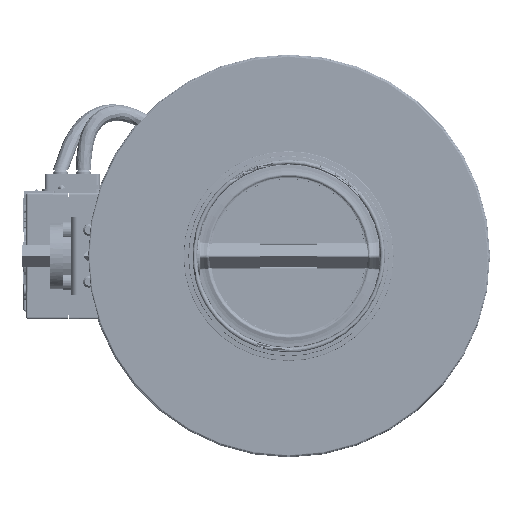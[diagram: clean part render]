
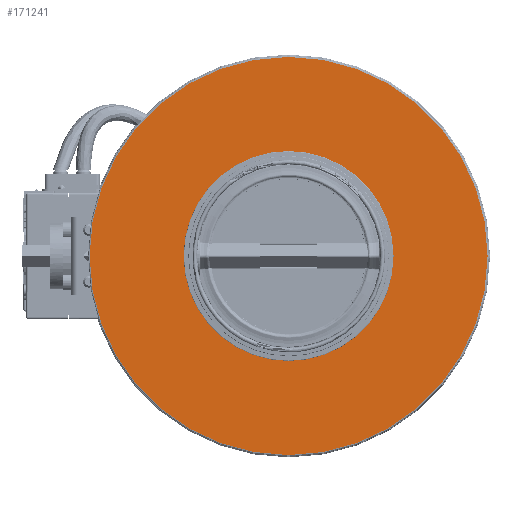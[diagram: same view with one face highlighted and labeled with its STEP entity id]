
A CAD part, left-side view. The second image highlights one B-rep face of the part: STEP entity #171241.
In plain terms, the highlighted planar face has unit normal (-1, 0, 0) as drawn and (0, -1, 0) by its records, which use the part's own axes.
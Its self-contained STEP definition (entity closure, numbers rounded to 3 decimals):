
#2598 = DIRECTION ( 'NONE',  ( 0., -1., 0. ) ) ;
#47185 = CARTESIAN_POINT ( 'NONE',  ( -50., 0., 0. ) ) ;
#60452 = FACE_OUTER_BOUND ( 'NONE', #111646, .T. ) ;
#62390 = CARTESIAN_POINT ( 'NONE',  ( 0., 0., 0. ) ) ;
#77076 = DIRECTION ( 'NONE',  ( 0., -1., 0. ) ) ;
#111646 = EDGE_LOOP ( 'NONE', ( #357916 ) ) ;
#138729 = EDGE_CURVE ( 'NONE', #285396, #285396, #245908, .T. ) ;
#149342 = DIRECTION ( 'NONE',  ( 1., 0., 0. ) ) ;
#171241 = ADVANCED_FACE ( 'NONE', ( #60452, #269432 ), #333258, .T. ) ;
#179093 = CARTESIAN_POINT ( 'NONE',  ( -50., 0., 0. ) ) ;
#185622 = CIRCLE ( 'NONE', #191923, 104. ) ;
#191923 = AXIS2_PLACEMENT_3D ( 'NONE', #47185, #77076, #379638 ) ;
#201598 = AXIS2_PLACEMENT_3D ( 'NONE', #179093, #300781, #149342 ) ;
#232604 = CARTESIAN_POINT ( 'NONE',  ( 54., 0., 0. ) ) ;
#238629 = EDGE_LOOP ( 'NONE', ( #258814 ) ) ;
#245908 = CIRCLE ( 'NONE', #201598, 50. ) ;
#258814 = ORIENTED_EDGE ( 'NONE', *, *, #138729, .F. ) ;
#269432 = FACE_BOUND ( 'NONE', #238629, .T. ) ;
#285396 = VERTEX_POINT ( 'NONE', #317365 ) ;
#286093 = AXIS2_PLACEMENT_3D ( 'NONE', #62390, #2598, #327431 ) ;
#294035 = EDGE_CURVE ( 'NONE', #318378, #318378, #185622, .T. ) ;
#300781 = DIRECTION ( 'NONE',  ( 0., -1., 0. ) ) ;
#317365 = CARTESIAN_POINT ( 'NONE',  ( 0., 0., 0. ) ) ;
#318378 = VERTEX_POINT ( 'NONE', #232604 ) ;
#327431 = DIRECTION ( 'NONE',  ( 1., 0., 0. ) ) ;
#333258 = PLANE ( 'NONE',  #286093 ) ;
#357916 = ORIENTED_EDGE ( 'NONE', *, *, #294035, .T. ) ;
#379638 = DIRECTION ( 'NONE',  ( 1., 0., 0. ) ) ;
